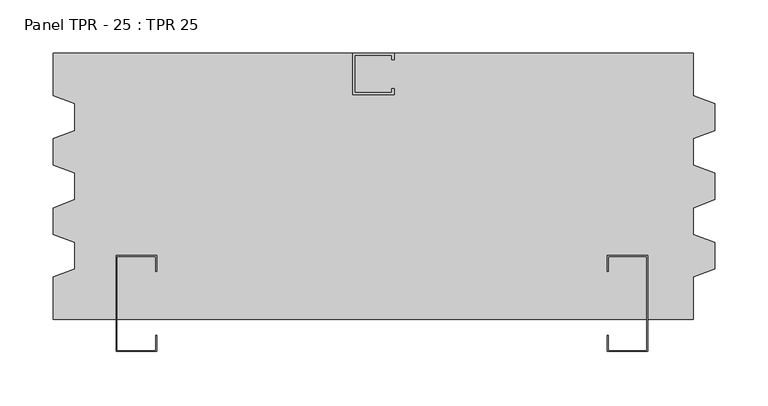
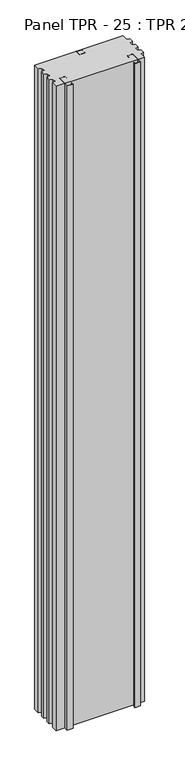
"""IFC4 building model written with IfcOpenShell, lengths in millimetres: plate geometry, Panel TPR - 25 : TPR 25."""

from ifc_helpers import new_model, si_unit, origin, origin_with_axes, place, context, project, spatial, polyline, outline, extrude, source, transform, mapped, element, save


def panel_tpr_25_tpr_25_5eba4ea3(model_context):
    return source(origin(), model_context, "Body", "SweptSolid", [
        extrude(outline(polyline([(-19.5, 125.0), (19.5, 125.0), (19.5, 119.0), (17.5, 119.0), (17.5, 123.0), (-17.5, 123.0), (-17.5, 88.0), (17.5, 88.0), (17.5, 92.0), (19.5, 92.0), (19.5, 86.0), (-19.5, 86.0), (-19.5, 125.0)])), origin_with_axes(), (0.0, 0.0, 1.0), 4618.8021535),
        extrude(outline(polyline([(-203.2000002, -65.0), (-203.2000002, -80.0), (-204.0500002, -80.0), (-204.0500002, -65.85), (-240.3500002, -65.85), (-240.3500002, -154.15), (-204.0500002, -154.15), (-204.0500002, -140.0), (-203.2000002, -140.0), (-203.2000002, -155.0), (-241.2000002, -155.0), (-241.2000002, -65.0), (-203.2000002, -65.0)])), origin_with_axes(), (0.0, 0.0, 1.0), 4618.8021535),
        extrude(outline(polyline([(219.2000002, -65.0), (257.2000002, -65.0), (257.2000002, -155.0), (219.2000002, -155.0), (219.2000002, -140.0), (220.0500002, -140.0), (220.0500002, -154.15), (256.3500002, -154.15), (256.3500002, -65.85), (220.0500002, -65.85), (220.0500002, -80.0), (219.2000002, -80.0), (219.2000002, -65.0)])), origin_with_axes(), (0.0, 0.0, 1.0), 4618.8021535),
        extrude(outline(polyline([(-300.0000002, 20.0010038), (-300.0000002, 45.0010038), (-280.0000002, 52.5020076), (-280.0000002, 77.5020076), (-300.0000002, 85.0030113), (-300.0000002, 125.0), (300.0000002, 125.0), (300.0000002, 85.0030113), (320.0000002, 77.5020076), (320.0000002, 52.5020076), (300.0000002, 45.0010038), (300.0000002, 20.0010038), (320.0000002, 12.5), (320.0000002, -12.5), (300.0000002, -20.0010038), (300.0000002, -45.0010038), (320.0000002, -52.5020076), (320.0000002, -77.5020076), (300.0000002, -85.0030113), (300.0000002, -125.0), (-300.0000002, -125.0), (-300.0000002, -85.0030113), (-280.0000002, -77.5020076), (-280.0000002, -52.5020076), (-300.0000002, -45.0010038), (-300.0000002, -20.0010038), (-280.0000002, -12.5), (-280.0000002, 12.5), (-300.0000002, 20.0010038)])), origin_with_axes(), (0.0, 0.0, 1.0), 4618.8021535),
    ])


if __name__ == "__main__":
    model = new_model("IFC4")
    model_context = context("Model", 3, world=origin())
    ifc_project = project(units=[si_unit("LENGTHUNIT", "METRE", prefix="MILLI")], contexts=[model_context])
    site = spatial("IfcSite", under=ifc_project)
    building = spatial("IfcBuilding", under=site)
    placement = place(None, origin())
    panel_tpr_25_tpr_25_shape = panel_tpr_25_tpr_25_5eba4ea3(model_context)
    element("IfcPlate", 1, ObjectType="Panel TPR - 25 : TPR 25", at=placement, inside=building, context=model_context, shape_type="MappedRepresentation", body=[
        mapped(panel_tpr_25_tpr_25_shape, transform((0.0, 0.0, 0.0), x_axis=(1.0, 0.0, 0.0), y_axis=(0.0, 1.0, 0.0), z_axis=(0.0, 0.0, 1.0))),
    ])
    save(model, "model.ifc")
